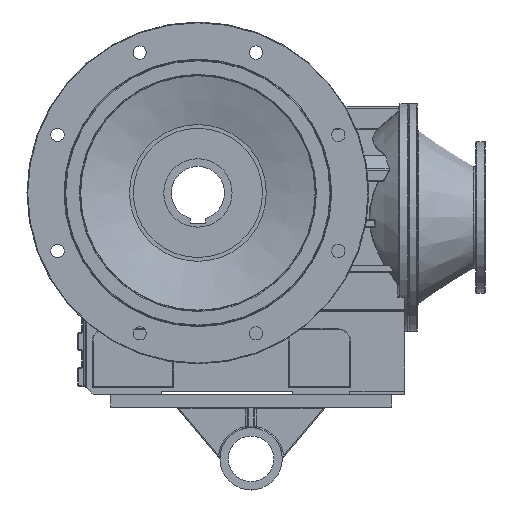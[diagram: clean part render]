
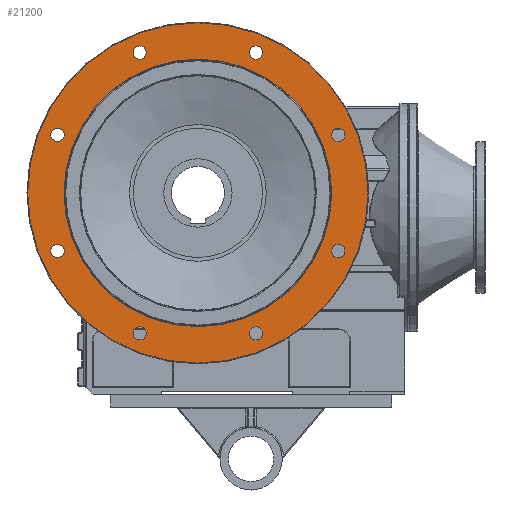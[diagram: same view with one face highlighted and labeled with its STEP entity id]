
A CAD part, front view. The second image highlights one B-rep face of the part: STEP entity #21200.
In plain terms, the highlighted planar face has unit normal (0, -1, 0).
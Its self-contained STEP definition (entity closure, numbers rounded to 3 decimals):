
#20620=CARTESIAN_POINT('',(-67.787,-45.5,184.776));
#20621=VERTEX_POINT('',#20620);
#20622=CARTESIAN_POINT('',(-76.537,-45.5,184.776));
#20623=DIRECTION('',(0.0,1.0,0.0));
#20624=DIRECTION('',(1.0,0.0,0.0));
#20625=AXIS2_PLACEMENT_3D('',#20622,#20623,#20624);
#20626=CIRCLE('',#20625,8.75);
#20627=EDGE_CURVE('',#20621,#20621,#20626,.T.);
#20669=CARTESIAN_POINT('',(85.287,-45.5,184.776));
#20670=VERTEX_POINT('',#20669);
#20671=CARTESIAN_POINT('',(76.537,-45.5,184.776));
#20672=DIRECTION('',(0.0,1.0,0.0));
#20673=DIRECTION('',(1.0,0.0,0.0));
#20674=AXIS2_PLACEMENT_3D('',#20671,#20672,#20673);
#20675=CIRCLE('',#20674,8.75);
#20676=EDGE_CURVE('',#20670,#20670,#20675,.T.);
#20718=CARTESIAN_POINT('',(85.287,-45.5,-184.776));
#20719=VERTEX_POINT('',#20718);
#20720=CARTESIAN_POINT('',(76.537,-45.5,-184.776));
#20721=DIRECTION('',(0.0,1.0,0.0));
#20722=DIRECTION('',(1.0,0.0,0.0));
#20723=AXIS2_PLACEMENT_3D('',#20720,#20721,#20722);
#20724=CIRCLE('',#20723,8.75);
#20725=EDGE_CURVE('',#20719,#20719,#20724,.T.);
#20767=CARTESIAN_POINT('',(-67.787,-45.5,-184.776));
#20768=VERTEX_POINT('',#20767);
#20769=CARTESIAN_POINT('',(-76.537,-45.5,-184.776));
#20770=DIRECTION('',(0.0,1.0,0.0));
#20771=DIRECTION('',(1.0,0.0,0.0));
#20772=AXIS2_PLACEMENT_3D('',#20769,#20770,#20771);
#20773=CIRCLE('',#20772,8.75);
#20774=EDGE_CURVE('',#20768,#20768,#20773,.T.);
#20816=CARTESIAN_POINT('',(-176.026,-45.5,76.537));
#20817=VERTEX_POINT('',#20816);
#20818=CARTESIAN_POINT('',(-184.776,-45.5,76.537));
#20819=DIRECTION('',(0.0,1.0,0.0));
#20820=DIRECTION('',(1.0,0.0,0.0));
#20821=AXIS2_PLACEMENT_3D('',#20818,#20819,#20820);
#20822=CIRCLE('',#20821,8.75);
#20823=EDGE_CURVE('',#20817,#20817,#20822,.T.);
#20865=CARTESIAN_POINT('',(-176.026,-45.5,-76.537));
#20866=VERTEX_POINT('',#20865);
#20867=CARTESIAN_POINT('',(-184.776,-45.5,-76.537));
#20868=DIRECTION('',(0.0,1.0,0.0));
#20869=DIRECTION('',(1.0,0.0,0.0));
#20870=AXIS2_PLACEMENT_3D('',#20867,#20868,#20869);
#20871=CIRCLE('',#20870,8.75);
#20872=EDGE_CURVE('',#20866,#20866,#20871,.T.);
#20914=CARTESIAN_POINT('',(193.526,-45.5,-76.537));
#20915=VERTEX_POINT('',#20914);
#20916=CARTESIAN_POINT('',(184.776,-45.5,-76.537));
#20917=DIRECTION('',(0.0,1.0,0.0));
#20918=DIRECTION('',(1.0,0.0,0.0));
#20919=AXIS2_PLACEMENT_3D('',#20916,#20917,#20918);
#20920=CIRCLE('',#20919,8.75);
#20921=EDGE_CURVE('',#20915,#20915,#20920,.T.);
#20963=CARTESIAN_POINT('',(193.526,-45.5,76.537));
#20964=VERTEX_POINT('',#20963);
#20965=CARTESIAN_POINT('',(184.776,-45.5,76.537));
#20966=DIRECTION('',(0.0,1.0,0.0));
#20967=DIRECTION('',(1.0,0.0,0.0));
#20968=AXIS2_PLACEMENT_3D('',#20965,#20966,#20967);
#20969=CIRCLE('',#20968,8.75);
#20970=EDGE_CURVE('',#20964,#20964,#20969,.T.);
#21142=CARTESIAN_POINT('',(-224.0,-45.5,0.0));
#21143=VERTEX_POINT('',#21142);
#21144=CARTESIAN_POINT('',(0.0,-45.5,0.0));
#21145=DIRECTION('',(0.0,1.0,0.0));
#21146=DIRECTION('',(1.0,0.0,0.0));
#21147=AXIS2_PLACEMENT_3D('',#21144,#21145,#21146);
#21148=CIRCLE('',#21147,224.0);
#21149=EDGE_CURVE('',#21143,#21143,#21148,.T.);
#21157=CARTESIAN_POINT('',(-200.0,-45.5,0.));
#21158=DIRECTION('',(0.0,-1.0,0.0));
#21159=DIRECTION('',(0.0,0.0,-1.0));
#21160=AXIS2_PLACEMENT_3D('',#21157,#21158,#21159);
#21161=PLANE('',#21160);
#21162=ORIENTED_EDGE('',*,*,#21149,.F.);
#21163=EDGE_LOOP('',(#21162));
#21164=FACE_OUTER_BOUND('',#21163,.T.);
#21165=ORIENTED_EDGE('',*,*,#20627,.T.);
#21166=EDGE_LOOP('',(#21165));
#21167=FACE_BOUND('',#21166,.T.);
#21168=ORIENTED_EDGE('',*,*,#20676,.T.);
#21169=EDGE_LOOP('',(#21168));
#21170=FACE_BOUND('',#21169,.T.);
#21171=ORIENTED_EDGE('',*,*,#20725,.T.);
#21172=EDGE_LOOP('',(#21171));
#21173=FACE_BOUND('',#21172,.T.);
#21174=ORIENTED_EDGE('',*,*,#20774,.T.);
#21175=EDGE_LOOP('',(#21174));
#21176=FACE_BOUND('',#21175,.T.);
#21177=ORIENTED_EDGE('',*,*,#20823,.T.);
#21178=EDGE_LOOP('',(#21177));
#21179=FACE_BOUND('',#21178,.T.);
#21180=ORIENTED_EDGE('',*,*,#20872,.T.);
#21181=EDGE_LOOP('',(#21180));
#21182=FACE_BOUND('',#21181,.T.);
#21183=ORIENTED_EDGE('',*,*,#20921,.T.);
#21184=EDGE_LOOP('',(#21183));
#21185=FACE_BOUND('',#21184,.T.);
#21186=ORIENTED_EDGE('',*,*,#20970,.T.);
#21187=EDGE_LOOP('',(#21186));
#21188=FACE_BOUND('',#21187,.T.);
#21189=CARTESIAN_POINT('',(-176.0,-45.5,0.));
#21190=VERTEX_POINT('',#21189);
#21191=CARTESIAN_POINT('',(0.0,-45.5,0.0));
#21192=DIRECTION('',(0.0,-1.0,0.0));
#21193=DIRECTION('',(1.0,0.0,0.0));
#21194=AXIS2_PLACEMENT_3D('',#21191,#21192,#21193);
#21195=CIRCLE('',#21194,176.0);
#21196=EDGE_CURVE('',#21190,#21190,#21195,.T.);
#21197=ORIENTED_EDGE('',*,*,#21196,.F.);
#21198=EDGE_LOOP('',(#21197));
#21199=FACE_BOUND('',#21198,.T.);
#21200=ADVANCED_FACE('',(#21164,#21167,#21170,#21173,#21176,#21179,#21182,#21185,#21188,#21199),#21161,.T.);
